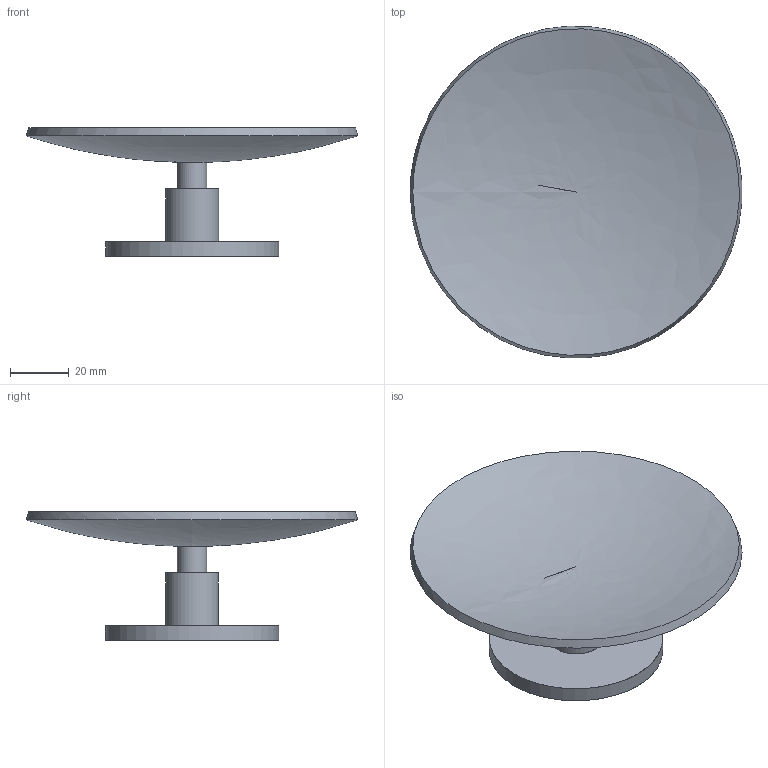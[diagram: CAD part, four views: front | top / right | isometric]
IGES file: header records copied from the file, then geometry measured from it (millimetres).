
Global section: file name: C:\Documents and Settings\Filippo\Desktop\INCOMPLETI\AM725.igs; native system: Rhinoceros ( Dec 20 2002 ); preprocessor: Trout Lake IGES 012 Dec 20 2002; date: 100603.094708; units: millimetre
Bounding box: 112.9 x 112.81 x 43.85 mm (x, y, z)
Surface area: 39989.9 mm2 (no closed solid volume)
Topology: 0 solids, 0 shells, 13 faces, 45 edges, 38 vertices
Faces by surface type: bspline 13
